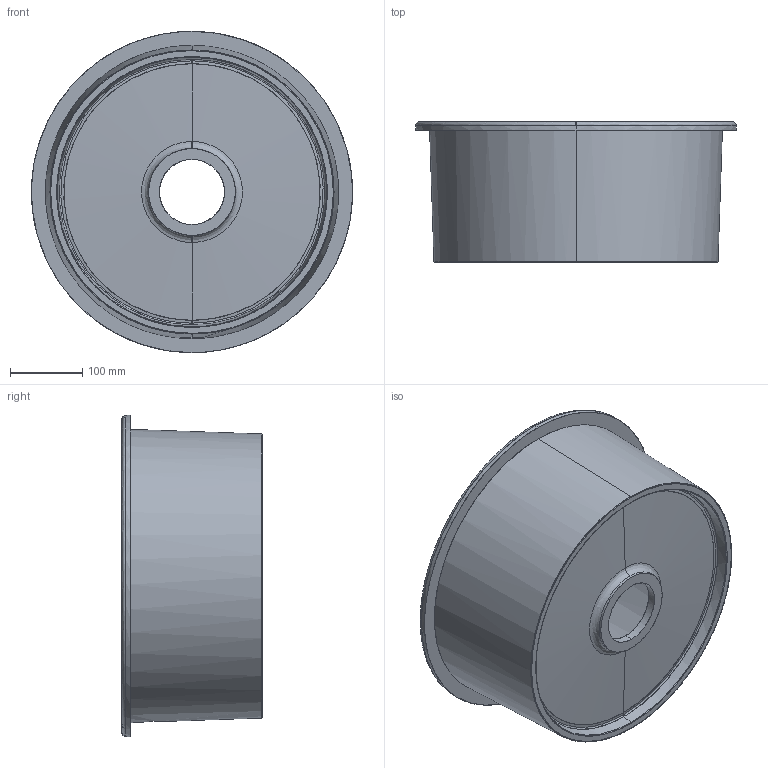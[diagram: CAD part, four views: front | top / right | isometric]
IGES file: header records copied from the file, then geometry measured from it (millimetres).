
Start section: SolidWorks IGES file using NURBS representation for surfaces
Global section: file name: D:\JÚLIO\#1# PRODUTOS\LAVA-LOUÇAS\Valet\7380 - l. louça ø500 encast\biblioteca 3D\7380_igs1.IGS; native system: SolidWorks 2018; preprocessor: SolidWorks 2018; author: Julio; date: 180420.092855; units: millimetre
Bounding box: 445 x 195 x 445 mm (x, y, z)
Surface area: 740581 mm2 (no closed solid volume)
Topology: 0 solids, 0 shells, 42 faces, 804 edges, 804 vertices
Faces by surface type: bspline 42
